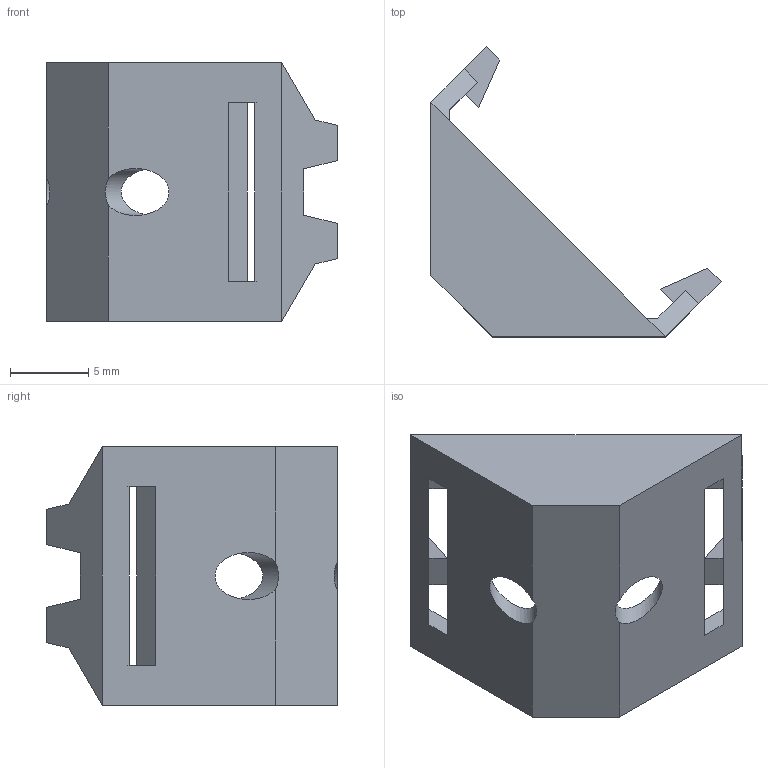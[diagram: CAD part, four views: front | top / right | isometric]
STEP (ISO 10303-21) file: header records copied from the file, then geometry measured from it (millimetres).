
FILE_DESCRIPTION (( 'STEP AP203' ), '1' );
FILE_NAME ('Halfround Clip Angle.STEP', '2026-04-20T14:04:03', ( '' ), ( '' ), 'SwSTEP 2.0', 'SolidWorks 2025', '' );
FILE_SCHEMA (( 'CONFIG_CONTROL_DESIGN' ));
Length unit declared in the file: millimetre
Products named in the file (1): Halfround Clip Angle
Bounding box: 18.49 x 18.49 x 16.5 mm (x, y, z)
Volume: 736.7 mm3; surface area: 1463 mm2
Topology: 1 solids, 1 shells, 54 faces, 156 edges, 100 vertices
Faces by surface type: plane 52, cylinder 2
Full cylindrical faces by diameter (mm): 3 x2
Entity records: 1803 total; most frequent: CARTESIAN_POINT 329, ORIENTED_EDGE 304, DIRECTION 260, EDGE_CURVE 152, LINE 146, VECTOR 146, VERTEX_POINT 98, EDGE_LOOP 60
